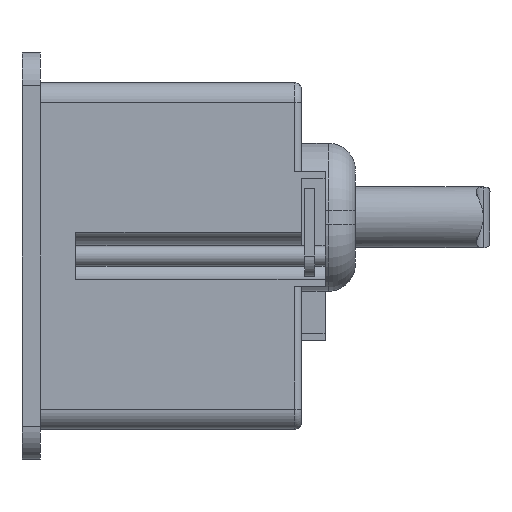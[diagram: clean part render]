
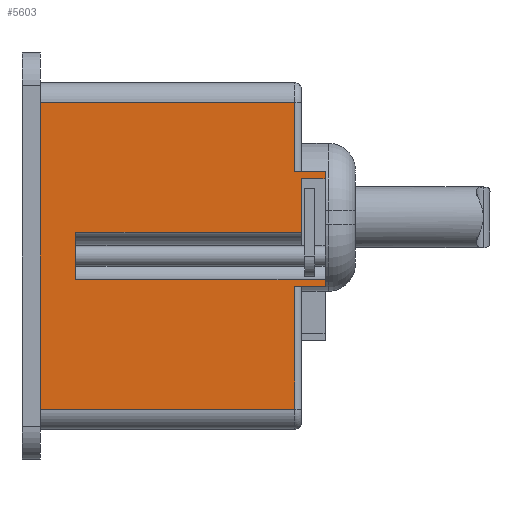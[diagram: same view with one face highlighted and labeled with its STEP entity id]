
A CAD part, left-side view. The second image highlights one B-rep face of the part: STEP entity #5603.
In plain terms, the highlighted planar face has unit normal (-1, 0, 0).
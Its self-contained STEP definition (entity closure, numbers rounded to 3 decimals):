
#38 = EDGE_CURVE ( 'NONE', #3377, #6093, #7279, .T. ) ;
#62 = VECTOR ( 'NONE', #3979, 1000. ) ;
#276 = ORIENTED_EDGE ( 'NONE', *, *, #6078, .T. ) ;
#526 = LINE ( 'NONE', #7282, #2428 ) ;
#531 = CARTESIAN_POINT ( 'NONE',  ( -121.35, 1., 22.75 ) ) ;
#627 = VECTOR ( 'NONE', #1502, 1000. ) ;
#784 = DIRECTION ( 'NONE',  ( 0., -1., 0. ) ) ;
#836 = ORIENTED_EDGE ( 'NONE', *, *, #880, .F. ) ;
#880 = EDGE_CURVE ( 'NONE', #4285, #3812, #2442, .T. ) ;
#1072 = DIRECTION ( 'NONE',  ( 0., 1., 0. ) ) ;
#1099 = CARTESIAN_POINT ( 'NONE',  ( -121.35, 41.5, 25.75 ) ) ;
#1133 = CARTESIAN_POINT ( 'NONE',  ( -121.35, 38.8, -22.75 ) ) ;
#1156 = LINE ( 'NONE', #2253, #4530 ) ;
#1372 = LINE ( 'NONE', #6660, #4812 ) ;
#1502 = DIRECTION ( 'NONE',  ( 0., 1., 0. ) ) ;
#1504 = EDGE_CURVE ( 'NONE', #2393, #4723, #4645, .T. ) ;
#1606 = ORIENTED_EDGE ( 'NONE', *, *, #4051, .F. ) ;
#1690 = CARTESIAN_POINT ( 'NONE',  ( -121.35, 0., 25.75 ) ) ;
#1829 = LINE ( 'NONE', #4112, #2262 ) ;
#1891 = ORIENTED_EDGE ( 'NONE', *, *, #5596, .T. ) ;
#1948 = LINE ( 'NONE', #2838, #4110 ) ;
#1978 = DIRECTION ( 'NONE',  ( 0., 1., 0. ) ) ;
#2183 = DIRECTION ( 'NONE',  ( 0., 0., 1. ) ) ;
#2253 = CARTESIAN_POINT ( 'NONE',  ( -121.35, -3.5, 0. ) ) ;
#2262 = VECTOR ( 'NONE', #1978, 1000. ) ;
#2368 = DIRECTION ( 'NONE',  ( 0., 0., 1. ) ) ;
#2393 = VERTEX_POINT ( 'NONE', #5095 ) ;
#2421 = VECTOR ( 'NONE', #7314, 1000. ) ;
#2428 = VECTOR ( 'NONE', #4430, 1000. ) ;
#2442 = LINE ( 'NONE', #5931, #4527 ) ;
#2580 = CARTESIAN_POINT ( 'NONE',  ( -121.35, 38.8, 22.75 ) ) ;
#2596 = CARTESIAN_POINT ( 'NONE',  ( -121.35, 1., -22.75 ) ) ;
#2786 = LINE ( 'NONE', #6650, #627 ) ;
#2838 = CARTESIAN_POINT ( 'NONE',  ( -121.35, -3.5, 11.5 ) ) ;
#2931 = CARTESIAN_POINT ( 'NONE',  ( -121.35, 1., 22.75 ) ) ;
#2985 = VECTOR ( 'NONE', #2368, 1000. ) ;
#3019 = ORIENTED_EDGE ( 'NONE', *, *, #3938, .T. ) ;
#3144 = VERTEX_POINT ( 'NONE', #4886 ) ;
#3246 = PLANE ( 'NONE',  #6382 ) ;
#3309 = DIRECTION ( 'NONE',  ( 0., -1., 0. ) ) ;
#3339 = CARTESIAN_POINT ( 'NONE',  ( -121.35, -3.5, -4.5 ) ) ;
#3377 = VERTEX_POINT ( 'NONE', #2596 ) ;
#3398 = EDGE_CURVE ( 'NONE', #7260, #3144, #5511, .T. ) ;
#3573 = EDGE_CURVE ( 'NONE', #3144, #3913, #7361, .T. ) ;
#3754 = DIRECTION ( 'NONE',  ( 0., 0., 1. ) ) ;
#3775 = ORIENTED_EDGE ( 'NONE', *, *, #3398, .T. ) ;
#3786 = LINE ( 'NONE', #5467, #2421 ) ;
#3812 = VERTEX_POINT ( 'NONE', #5807 ) ;
#3843 = ORIENTED_EDGE ( 'NONE', *, *, #6030, .F. ) ;
#3883 = DIRECTION ( 'NONE',  ( 0., 0., -1. ) ) ;
#3913 = VERTEX_POINT ( 'NONE', #4902 ) ;
#3938 = EDGE_CURVE ( 'NONE', #4285, #7260, #7161, .T. ) ;
#3958 = VECTOR ( 'NONE', #3754, 1000. ) ;
#3979 = DIRECTION ( 'NONE',  ( 0., 0., 1. ) ) ;
#3985 = ORIENTED_EDGE ( 'NONE', *, *, #38, .T. ) ;
#4051 = EDGE_CURVE ( 'NONE', #5813, #7360, #7313, .T. ) ;
#4091 = VERTEX_POINT ( 'NONE', #3339 ) ;
#4110 = VECTOR ( 'NONE', #1072, 1000. ) ;
#4112 = CARTESIAN_POINT ( 'NONE',  ( -121.35, -3.5, -4.5 ) ) ;
#4126 = ORIENTED_EDGE ( 'NONE', *, *, #7124, .F. ) ;
#4207 = ORIENTED_EDGE ( 'NONE', *, *, #6779, .F. ) ;
#4248 = ORIENTED_EDGE ( 'NONE', *, *, #3573, .T. ) ;
#4270 = CARTESIAN_POINT ( 'NONE',  ( -121.35, 38.8, -22.75 ) ) ;
#4285 = VERTEX_POINT ( 'NONE', #7084 ) ;
#4309 = DIRECTION ( 'NONE',  ( 0., 0., 1. ) ) ;
#4407 = ORIENTED_EDGE ( 'NONE', *, *, #7139, .F. ) ;
#4430 = DIRECTION ( 'NONE',  ( 0., 0., -1. ) ) ;
#4527 = VECTOR ( 'NONE', #784, 1000. ) ;
#4530 = VECTOR ( 'NONE', #5168, 1000. ) ;
#4645 = LINE ( 'NONE', #2931, #2985 ) ;
#4723 = VERTEX_POINT ( 'NONE', #531 ) ;
#4812 = VECTOR ( 'NONE', #5911, 1000. ) ;
#4821 = CARTESIAN_POINT ( 'NONE',  ( -121.35, -3.5, 12.5 ) ) ;
#4886 = CARTESIAN_POINT ( 'NONE',  ( -121.35, 0., 3.5 ) ) ;
#4902 = CARTESIAN_POINT ( 'NONE',  ( -121.35, 0., 11.5 ) ) ;
#4982 = CARTESIAN_POINT ( 'NONE',  ( -121.35, 1., -4.5 ) ) ;
#4987 = VECTOR ( 'NONE', #3309, 1000. ) ;
#5068 = CARTESIAN_POINT ( 'NONE',  ( -121.35, 1., -4.5 ) ) ;
#5095 = CARTESIAN_POINT ( 'NONE',  ( -121.35, 1., 12.5 ) ) ;
#5124 = EDGE_LOOP ( 'NONE', ( #276, #6356, #6636, #1606, #1891, #3985, #4407, #3843, #836, #3019, #3775, #4248, #4207, #4126 ) ) ;
#5168 = DIRECTION ( 'NONE',  ( 0., 0., -1. ) ) ;
#5192 = EDGE_CURVE ( 'NONE', #4723, #7360, #3786, .T. ) ;
#5344 = CARTESIAN_POINT ( 'NONE',  ( -121.35, 33.5, 3.5 ) ) ;
#5453 = VERTEX_POINT ( 'NONE', #6997 ) ;
#5467 = CARTESIAN_POINT ( 'NONE',  ( -121.35, 41.5, 22.75 ) ) ;
#5511 = LINE ( 'NONE', #6083, #4987 ) ;
#5596 = EDGE_CURVE ( 'NONE', #5813, #3377, #1372, .T. ) ;
#5603 = ADVANCED_FACE ( 'NONE', ( #5948 ), #3246, .F. ) ;
#5635 = VECTOR ( 'NONE', #4309, 1000. ) ;
#5807 = CARTESIAN_POINT ( 'NONE',  ( -121.35, -3.5, -3.5 ) ) ;
#5813 = VERTEX_POINT ( 'NONE', #1133 ) ;
#5911 = DIRECTION ( 'NONE',  ( 0., -1., 0. ) ) ;
#5931 = CARTESIAN_POINT ( 'NONE',  ( -121.35, 51.399, -3.5 ) ) ;
#5948 = FACE_OUTER_BOUND ( 'NONE', #5124, .T. ) ;
#6030 = EDGE_CURVE ( 'NONE', #3812, #4091, #526, .T. ) ;
#6078 = EDGE_CURVE ( 'NONE', #7219, #2393, #2786, .T. ) ;
#6083 = CARTESIAN_POINT ( 'NONE',  ( -121.35, 51.399, 3.5 ) ) ;
#6093 = VERTEX_POINT ( 'NONE', #5068 ) ;
#6097 = DIRECTION ( 'NONE',  ( 1., 0., 0. ) ) ;
#6356 = ORIENTED_EDGE ( 'NONE', *, *, #1504, .T. ) ;
#6382 = AXIS2_PLACEMENT_3D ( 'NONE', #1099, #6097, #3883 ) ;
#6566 = VECTOR ( 'NONE', #2183, 1000. ) ;
#6636 = ORIENTED_EDGE ( 'NONE', *, *, #5192, .T. ) ;
#6650 = CARTESIAN_POINT ( 'NONE',  ( -121.35, -3.5, 12.5 ) ) ;
#6660 = CARTESIAN_POINT ( 'NONE',  ( -121.35, 41.5, -22.75 ) ) ;
#6779 = EDGE_CURVE ( 'NONE', #5453, #3913, #1948, .T. ) ;
#6997 = CARTESIAN_POINT ( 'NONE',  ( -121.35, -3.5, 11.5 ) ) ;
#7084 = CARTESIAN_POINT ( 'NONE',  ( -121.35, 33.5, -3.5 ) ) ;
#7124 = EDGE_CURVE ( 'NONE', #7219, #5453, #1156, .T. ) ;
#7139 = EDGE_CURVE ( 'NONE', #4091, #6093, #1829, .T. ) ;
#7161 = LINE ( 'NONE', #7275, #3958 ) ;
#7219 = VERTEX_POINT ( 'NONE', #4821 ) ;
#7260 = VERTEX_POINT ( 'NONE', #5344 ) ;
#7275 = CARTESIAN_POINT ( 'NONE',  ( -121.35, 33.5, 3.5 ) ) ;
#7279 = LINE ( 'NONE', #4982, #6566 ) ;
#7282 = CARTESIAN_POINT ( 'NONE',  ( -121.35, -3.5, 0. ) ) ;
#7313 = LINE ( 'NONE', #4270, #5635 ) ;
#7314 = DIRECTION ( 'NONE',  ( 0., 1., 0. ) ) ;
#7360 = VERTEX_POINT ( 'NONE', #2580 ) ;
#7361 = LINE ( 'NONE', #1690, #62 ) ;
